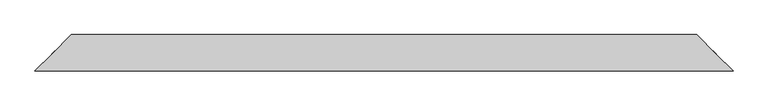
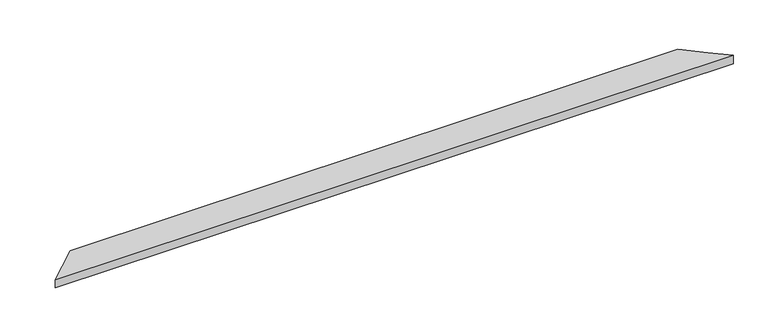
"""IFC4 building model written with IfcOpenShell, lengths in millimetres: proxy geometry, АК5_1 Парапет : АК5_1 Парапет."""

from ifc_helpers import new_model, si_unit, origin, place, context, project, spatial, faceted_brep, source, transform, mapped, element, save


def generic_models_c406717c(model_context):
    return source(origin(), model_context, "Body", "Brep", [
        faceted_brep([(-150.0, -150.0, 62.265966), (-150.0, -150.0, -20.4), (6150.3488694, -150.0, -20.4), (6150.3488694, -150.0, 62.265966), (177.1, 177.1, 33.6484242), (0.0, 0.0, 49.1426665), (6000.3488694, 0.0, 49.1426665), (5823.2488694, 177.1, 33.6484242), (177.1, 177.1, -51.4916897), (5823.2488694, 177.1, -51.4916897), (162.9578644, 162.9578644, -37.3495541), (5837.391005, 162.9578644, -37.3495541), (162.9578644, 162.9578644, -77.3495541), (5837.391005, 162.9578644, -77.3495541), (160.0, 160.0, -77.3495541), (5840.3488694, 160.0, -77.3495541), (160.0, 160.0, -57.3495541), (5840.3488694, 160.0, -57.3495541), (161.0, 161.0, -57.3495541), (5839.3488694, 161.0, -57.3495541), (161.0, 161.0, -76.3495541), (5839.3488694, 161.0, -76.3495541), (161.9578644, 161.9578644, -76.3495541), (5838.391005, 161.9578644, -76.3495541), (161.9578644, 161.9578644, -34.9353406), (5838.391005, 161.9578644, -34.9353406), (176.1, 176.1, -49.0774762), (5824.2488694, 176.1, -49.0774762), (176.1, 176.1, 32.732093), (5824.2488694, 176.1, 32.732093), (0.0, 0.0, 48.1388467), (6000.3488694, 0.0, 48.1388467), (6149.3488694, -149.0, 61.1746575), (-149.0, -149.0, 61.1746575), (-149.0, -149.0, -17.9857864), (6149.3488694, -149.0, -17.9857864), (-133.0294373, -133.0294373, -2.0152237), (6133.3783067, -133.0294373, -2.0152237), (-132.3223305, -132.3223305, -2.7223305), (6132.6711999, -132.3223305, -2.7223305)], [[[0, 1, 2, 3]], [[4, 5, 0, 3, 6, 7]], [[8, 4, 7, 9]], [[10, 8, 9, 11]], [[12, 10, 11, 13]], [[14, 12, 13, 15]], [[16, 14, 15, 17]], [[18, 16, 17, 19]], [[20, 18, 19, 21]], [[22, 20, 21, 23]], [[24, 22, 23, 25]], [[26, 24, 25, 27]], [[28, 26, 27, 29]], [[30, 28, 29, 31, 32, 33]], [[34, 33, 32, 35]], [[36, 34, 35, 37]], [[38, 36, 37, 39]], [[1, 38, 39, 2]], [[30, 5, 4, 8, 10, 12, 14, 16, 18, 20, 22, 24, 26, 28]], [[5, 30, 33, 34, 36, 38, 1, 0]], [[6, 31, 29, 27, 25, 23, 21, 19, 17, 15, 13, 11, 9, 7]], [[31, 6, 3, 2, 39, 37, 35, 32]]]),
        faceted_brep([(-148.0, -148.0, -12.5), (-146.0, -146.0, -12.5), (6146.3488694, -146.0, -12.5), (6148.3488694, -148.0, -12.5), (-148.0, -148.0, 60.083349), (6148.3488694, -148.0, 60.083349), (1.5433638, 1.5433638, 47.0), (0.0, 0.0, 47.1350268), (6000.3488694, 0.0, 47.1350268), (5998.8055056, 1.5433638, 47.0), (1.5433638, 1.5433638, 4.0), (5998.8055056, 1.5433638, 4.0), (67.5433638, 67.5433638, 4.0), (5932.8055056, 67.5433638, 4.0), (67.5433638, 67.5433638, 41.2257482), (5932.8055056, 67.5433638, 41.2257482), (114.5464367, 114.5464367, 37.1135122), (5885.8024327, 114.5464367, 37.1135122), (114.3721252, 114.3721252, 35.1211228), (5885.9767442, 114.3721252, 35.1211228), (69.5433638, 69.5433638, 39.0431312), (5930.8055056, 69.5433638, 39.0431312), (69.5433638, 69.5433638, 2.0), (5930.8055056, 69.5433638, 2.0), (0.0, 0.0, 2.0), (6000.3488694, 0.0, 2.0), (6000.8055056, -0.4566362, 2.0), (-0.4566362, -0.4566362, 2.0), (-0.4566362, -0.4566362, 45.1673377), (6000.8055056, -0.4566362, 45.1673377), (-146.0, -146.0, 57.900732), (6146.3488694, -146.0, 57.900732)], [[[0, 1, 2, 3]], [[4, 0, 3, 5]], [[6, 7, 4, 5, 8, 9]], [[10, 6, 9, 11]], [[12, 10, 11, 13]], [[14, 12, 13, 15]], [[16, 14, 15, 17]], [[18, 16, 17, 19]], [[20, 18, 19, 21]], [[22, 20, 21, 23]], [[24, 22, 23, 25, 26, 27]], [[28, 27, 26, 29]], [[30, 28, 29, 31]], [[1, 30, 31, 2]], [[24, 7, 6, 10, 12, 14, 16, 18, 20, 22]], [[7, 24, 27, 28, 30, 1, 0, 4]], [[8, 25, 23, 21, 19, 17, 15, 13, 11, 9]], [[25, 8, 5, 3, 2, 31, 29, 26]]]),
    ])


if __name__ == "__main__":
    model = new_model("IFC4")
    model_context = context("Model", 3, world=origin())
    ifc_project = project(units=[si_unit("LENGTHUNIT", "METRE", prefix="MILLI")], contexts=[model_context])
    site = spatial("IfcSite", under=ifc_project)
    building = spatial("IfcBuilding", under=site)
    placement = place(None, origin())
    generic_models_shape = generic_models_c406717c(model_context)
    element("IfcBuildingElementProxy", 1, Name="АК5_1 Парапет : АК5_1 Парапет", ObjectType="АК5_1 Парапет : АК5_1 Парапет", at=placement, inside=building, context=model_context, shape_type="MappedRepresentation", body=[
        mapped(generic_models_shape, transform((0.0, 0.0, 0.0), x_axis=(1.0, 0.0, 0.0), y_axis=(0.0, 1.0, 0.0), z_axis=(0.0, 0.0, 1.0))),
    ])
    save(model, "model.ifc")
